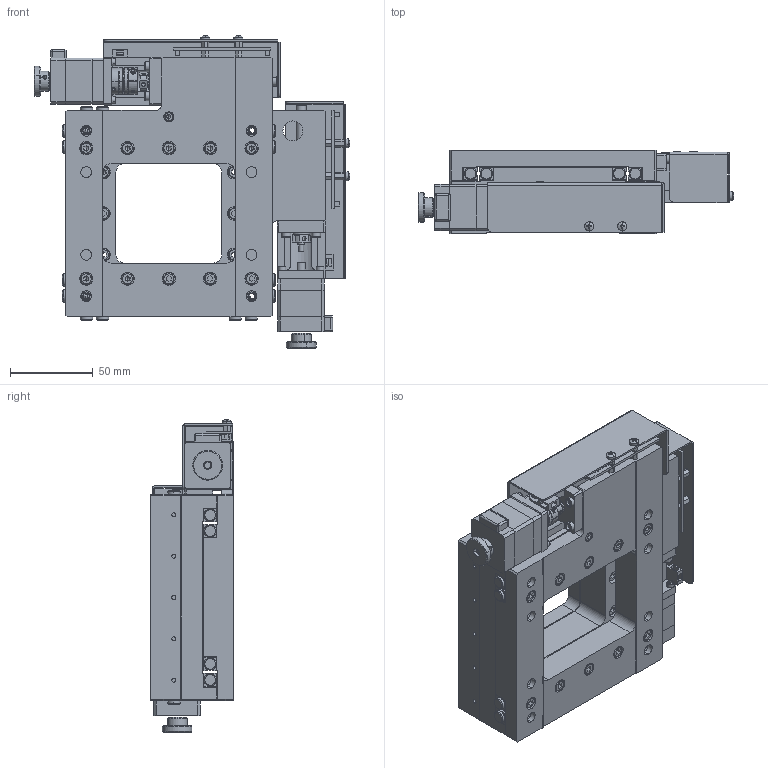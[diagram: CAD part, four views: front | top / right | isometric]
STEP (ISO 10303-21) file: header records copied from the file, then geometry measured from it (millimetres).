
FILE_DESCRIPTION (( 'STEP AP203' ), '1' );
FILE_NAME ('XY5050.step', '2019-05-06T08:41:20', ( '' ), ( '' ), 'SwSTEP 2.0', 'SolidWorks 2017', '' );
FILE_SCHEMA (( 'CONFIG_CONTROL_DESIGN' ));
Length unit declared in the file: millimetre
Products named in the file (1): XY5050
Bounding box: 190.97 x 50 x 188.97 mm (x, y, z)
Surface area: 219302.5 mm2 (no closed solid volume)
Topology: 0 solids, 169 shells, 1588 faces, 6010 edges, 4431 vertices
Faces by surface type: plane 921, cylinder 439, cone 127, torus 78, sphere 12, bspline 11
Entity records: 66963 total; most frequent: CARTESIAN_POINT 17310, DIRECTION 10218, ORIENTED_EDGE 8879, EDGE_CURVE 5962, VERTEX_POINT 4431, LINE 3504, VECTOR 3504, AXIS2_PLACEMENT_3D 3357
